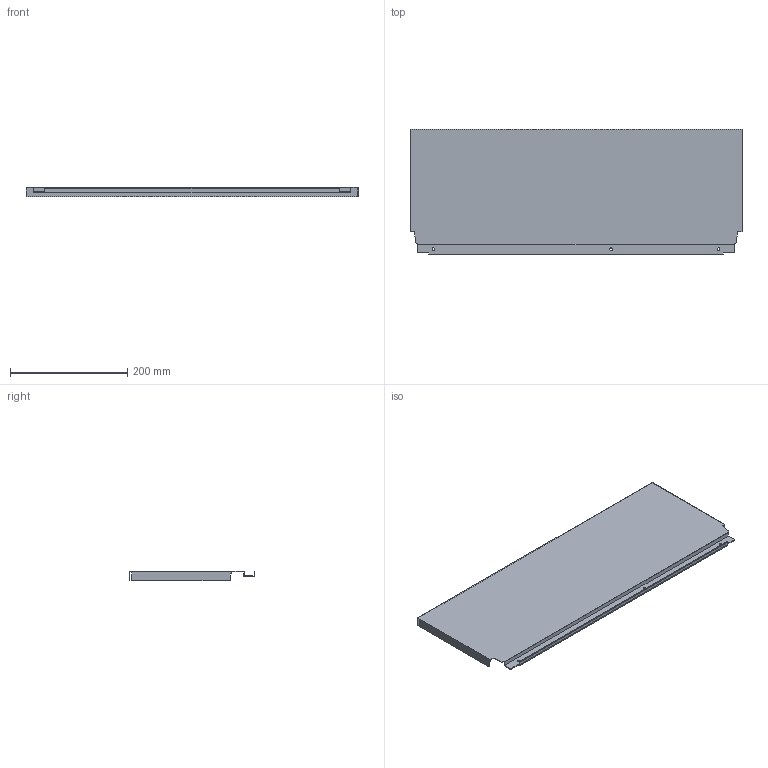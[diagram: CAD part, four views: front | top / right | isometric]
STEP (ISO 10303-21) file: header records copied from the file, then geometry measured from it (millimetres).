
FILE_DESCRIPTION (( 'STEP AP214' ), '1' );
FILE_NAME ('_DWD_XP Stahlrückwand_H214_KAB650_S16.step', '2010-07-08T13:02:49', ( 'grass' ), ( '' ), 'SwSTEP 2.0', 'SolidWorks 2010', '' );
FILE_SCHEMA (( 'AUTOMOTIVE_DESIGN' ));
Length unit declared in the file: millimetre
Products named in the file (1): _DWD_XP Stahlrückwand_H214_KAB650_S16
Bounding box: 567 x 214.58 x 16 mm (x, y, z)
Volume: 135375.7 mm3; surface area: 285927.8 mm2
Topology: 1 solids, 1 shells, 46 faces, 132 edges, 88 vertices
Faces by surface type: plane 40, cylinder 6
Entity records: 1534 total; most frequent: CARTESIAN_POINT 267, ORIENTED_EDGE 264, DIRECTION 238, EDGE_CURVE 132, VECTOR 120, LINE 120, VERTEX_POINT 88, AXIS2_PLACEMENT_3D 59
